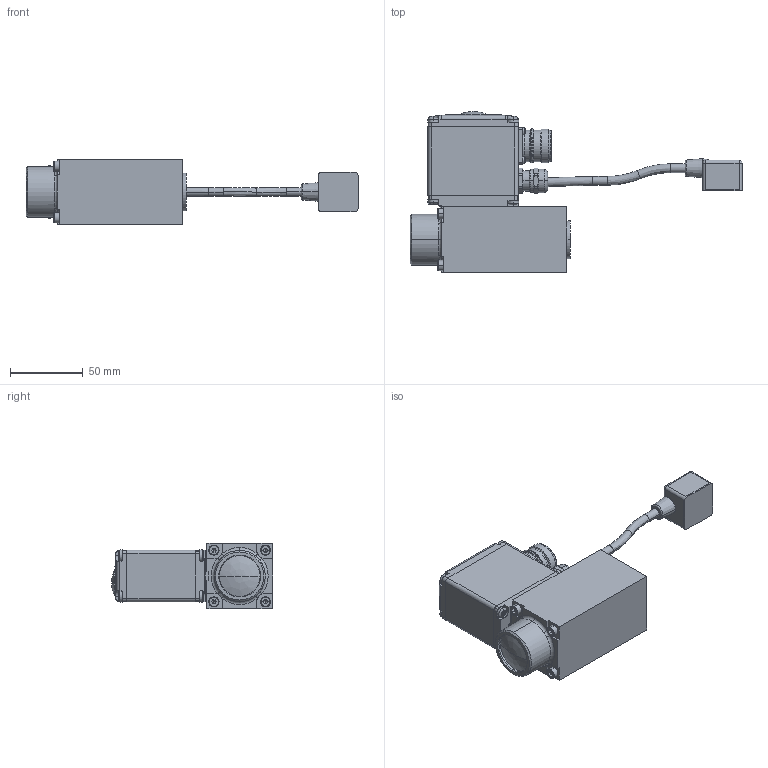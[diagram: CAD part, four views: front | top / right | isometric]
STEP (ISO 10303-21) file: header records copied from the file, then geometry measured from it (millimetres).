
FILE_DESCRIPTION (( 'STEP AP203' ), '1' );
FILE_NAME ('PI45EV-P1-24A .step', '2013-07-29T06:46:43', ( 'Wandfluh AG' ), ( 'Wandfluh AG' ), 'SwSTEP 2.0', 'SolidWorks 2012', '' );
FILE_SCHEMA (( 'CONFIG_CONTROL_DESIGN' ));
Products named in the file (1): PI45EV-P1-24A 
Bounding box: 227.48 x 110.39 x 45 mm (x, y, z)
Volume: 272409.6 mm3; surface area: 90253.2 mm2
Topology: 63 solids, 63 shells, 4678 faces, 12595 edges, 8131 vertices
Faces by surface type: plane 2478, cylinder 1240, cone 373, torus 348, bspline 166, sphere 73
Entity records: 152910 total; most frequent: CARTESIAN_POINT 35984, ORIENTED_EDGE 24964, DIRECTION 23845, EDGE_CURVE 12482, VERTEX_POINT 8107, AXIS2_PLACEMENT_3D 7981, VECTOR 7883, LINE 7883
